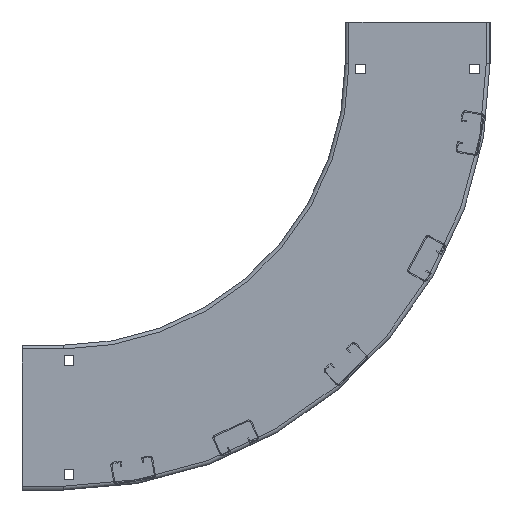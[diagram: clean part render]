
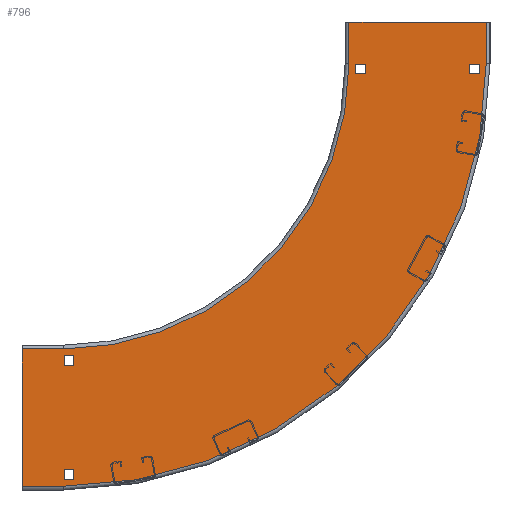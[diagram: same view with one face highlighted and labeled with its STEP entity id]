
A CAD part, left-side view. The second image highlights one B-rep face of the part: STEP entity #796.
In plain terms, the highlighted planar face has unit normal (-1, 0, 0).
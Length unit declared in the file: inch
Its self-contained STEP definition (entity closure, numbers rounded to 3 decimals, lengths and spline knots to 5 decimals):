
#1=DIRECTION('',(0.,0.,-1.));
#2=VECTOR('',#1,5.838);
#3=CARTESIAN_POINT('',(0.,-1.75,18.));
#4=LINE('',#3,#2);
#5=DIRECTION('',(0.,1.,0.));
#6=VECTOR('',#5,5.838);
#7=CARTESIAN_POINT('',(0.,12.162,-1.75));
#8=LINE('',#7,#6);
#9=DIRECTION('',(0.,0.,-1.));
#10=VECTOR('',#9,0.41);
#11=CARTESIAN_POINT('',(0.,17.7035,0.455));
#12=LINE('',#11,#10);
#13=DIRECTION('',(0.,-1.,0.));
#14=VECTOR('',#13,0.41);
#15=CARTESIAN_POINT('',(0.,17.7035,0.045));
#16=LINE('',#15,#14);
#17=DIRECTION('',(0.,0.,1.));
#18=VECTOR('',#17,0.41);
#19=CARTESIAN_POINT('',(0.,17.2935,0.045));
#20=LINE('',#19,#18);
#21=DIRECTION('',(0.,1.,0.));
#22=VECTOR('',#21,0.41);
#23=CARTESIAN_POINT('',(0.,17.2935,0.455));
#24=LINE('',#23,#22);
#25=DIRECTION('',(0.,1.,0.));
#26=VECTOR('',#25,0.41);
#27=CARTESIAN_POINT('',(0.,12.4585,0.455));
#28=LINE('',#27,#26);
#29=DIRECTION('',(0.,0.,-1.));
#30=VECTOR('',#29,0.41);
#31=CARTESIAN_POINT('',(0.,12.8685,0.455));
#32=LINE('',#31,#30);
#33=DIRECTION('',(0.,-1.,0.));
#34=VECTOR('',#33,0.41);
#35=CARTESIAN_POINT('',(0.,12.8685,0.045));
#36=LINE('',#35,#34);
#37=DIRECTION('',(0.,0.,1.));
#38=VECTOR('',#37,0.41);
#39=CARTESIAN_POINT('',(0.,12.4585,0.045));
#40=LINE('',#39,#38);
#41=DIRECTION('',(0.,0.,-1.));
#42=VECTOR('',#41,0.41);
#43=CARTESIAN_POINT('',(0.,0.455,12.86611));
#44=LINE('',#43,#42);
#45=DIRECTION('',(0.,-1.,0.));
#46=VECTOR('',#45,0.41);
#47=CARTESIAN_POINT('',(0.,0.455,12.45611));
#48=LINE('',#47,#46);
#49=DIRECTION('',(0.,0.,1.));
#50=VECTOR('',#49,0.41);
#51=CARTESIAN_POINT('',(0.,0.045,12.45611));
#52=LINE('',#51,#50);
#53=DIRECTION('',(0.,1.,0.));
#54=VECTOR('',#53,0.41);
#55=CARTESIAN_POINT('',(0.,0.045,12.86611));
#56=LINE('',#55,#54);
#57=DIRECTION('',(0.,0.,1.));
#58=VECTOR('',#57,0.41);
#59=CARTESIAN_POINT('',(0.,0.045,17.29177));
#60=LINE('',#59,#58);
#61=DIRECTION('',(0.,1.,0.));
#62=VECTOR('',#61,0.41);
#63=CARTESIAN_POINT('',(0.,0.045,17.70177));
#64=LINE('',#63,#62);
#65=DIRECTION('',(0.,0.,-1.));
#66=VECTOR('',#65,0.41);
#67=CARTESIAN_POINT('',(0.,0.455,17.70177));
#68=LINE('',#67,#66);
#69=DIRECTION('',(0.,-1.,0.));
#70=VECTOR('',#69,0.41);
#71=CARTESIAN_POINT('',(0.,0.455,17.29177));
#72=LINE('',#71,#70);
#73=DIRECTION('',(0.,0.,1.));
#74=VECTOR('',#73,1.75);
#75=CARTESIAN_POINT('',(0.,18.,-1.75));
#76=LINE('',#75,#74);
#114=DIRECTION('',(0.,0.,-1.));
#115=VECTOR('',#114,1.75);
#116=CARTESIAN_POINT('',(0.,12.162,0.));
#117=LINE('',#116,#115);
#123=CARTESIAN_POINT('',(0.,0.,0.));
#124=DIRECTION('',(-1.,0.,0.));
#125=DIRECTION('',(0.,0.,1.));
#126=AXIS2_PLACEMENT_3D('',#123,#124,#125);
#128=DIRECTION('',(0.,1.,0.));
#129=VECTOR('',#128,1.75);
#130=CARTESIAN_POINT('',(0.,-1.75,12.162));
#131=LINE('',#130,#129);
#169=DIRECTION('',(0.,-1.,0.));
#170=VECTOR('',#169,1.75);
#171=CARTESIAN_POINT('',(0.,0.,18.));
#172=LINE('',#171,#170);
#178=CARTESIAN_POINT('',(0.,0.,0.));
#179=DIRECTION('',(1.,0.,0.));
#180=DIRECTION('',(0.,1.,0.));
#181=AXIS2_PLACEMENT_3D('',#178,#179,#180);
#573=CARTESIAN_POINT('',(0.,-1.75,12.162));
#575=VERTEX_POINT('',#573);
#579=CARTESIAN_POINT('',(0.,0.,12.162));
#581=VERTEX_POINT('',#579);
#585=CARTESIAN_POINT('',(0.,12.162,0.));
#587=VERTEX_POINT('',#585);
#591=CARTESIAN_POINT('',(0.,12.162,-1.75));
#593=VERTEX_POINT('',#591);
#621=CARTESIAN_POINT('',(0.,18.,-1.75));
#622=VERTEX_POINT('',#621);
#623=CARTESIAN_POINT('',(0.,-1.75,18.));
#624=VERTEX_POINT('',#623);
#629=CARTESIAN_POINT('',(0.,18.,0.));
#631=VERTEX_POINT('',#629);
#635=CARTESIAN_POINT('',(0.,0.,18.));
#637=VERTEX_POINT('',#635);
#669=CARTESIAN_POINT('',(0.,17.7035,0.455));
#670=CARTESIAN_POINT('',(0.,17.7035,0.045));
#671=VERTEX_POINT('',#669);
#672=VERTEX_POINT('',#670);
#673=CARTESIAN_POINT('',(0.,17.2935,0.045));
#674=VERTEX_POINT('',#673);
#675=CARTESIAN_POINT('',(0.,17.2935,0.455));
#676=VERTEX_POINT('',#675);
#677=CARTESIAN_POINT('',(0.,12.4585,0.455));
#678=CARTESIAN_POINT('',(0.,12.8685,0.455));
#679=VERTEX_POINT('',#677);
#680=VERTEX_POINT('',#678);
#681=CARTESIAN_POINT('',(0.,12.8685,0.045));
#682=VERTEX_POINT('',#681);
#683=CARTESIAN_POINT('',(0.,12.4585,0.045));
#684=VERTEX_POINT('',#683);
#701=CARTESIAN_POINT('',(0.,0.455,12.86611));
#702=CARTESIAN_POINT('',(0.,0.455,12.45611));
#703=VERTEX_POINT('',#701);
#704=VERTEX_POINT('',#702);
#705=CARTESIAN_POINT('',(0.,0.045,12.45611));
#706=VERTEX_POINT('',#705);
#707=CARTESIAN_POINT('',(0.,0.045,12.86611));
#708=VERTEX_POINT('',#707);
#709=CARTESIAN_POINT('',(0.,0.045,17.29177));
#710=CARTESIAN_POINT('',(0.,0.045,17.70177));
#711=VERTEX_POINT('',#709);
#712=VERTEX_POINT('',#710);
#713=CARTESIAN_POINT('',(0.,0.455,17.70177));
#714=VERTEX_POINT('',#713);
#715=CARTESIAN_POINT('',(0.,0.455,17.29177));
#716=VERTEX_POINT('',#715);
#733=CARTESIAN_POINT('',(0.,0.,0.));
#734=DIRECTION('',(1.,0.,0.));
#735=DIRECTION('',(0.,0.,-1.));
#736=AXIS2_PLACEMENT_3D('',#733,#734,#735);
#737=PLANE('',#736);
#739=ORIENTED_EDGE('',*,*,#738,.T.);
#741=ORIENTED_EDGE('',*,*,#740,.T.);
#743=ORIENTED_EDGE('',*,*,#742,.T.);
#745=ORIENTED_EDGE('',*,*,#744,.T.);
#747=ORIENTED_EDGE('',*,*,#746,.T.);
#749=ORIENTED_EDGE('',*,*,#748,.T.);
#751=ORIENTED_EDGE('',*,*,#750,.T.);
#753=ORIENTED_EDGE('',*,*,#752,.T.);
#754=EDGE_LOOP('',(#739,#741,#743,#745,#747,#749,#751,#753));
#755=FACE_OUTER_BOUND('',#754,.F.);
#757=ORIENTED_EDGE('',*,*,#756,.T.);
#759=ORIENTED_EDGE('',*,*,#758,.T.);
#761=ORIENTED_EDGE('',*,*,#760,.T.);
#763=ORIENTED_EDGE('',*,*,#762,.T.);
#764=EDGE_LOOP('',(#757,#759,#761,#763));
#765=FACE_BOUND('',#764,.F.);
#767=ORIENTED_EDGE('',*,*,#766,.T.);
#769=ORIENTED_EDGE('',*,*,#768,.T.);
#771=ORIENTED_EDGE('',*,*,#770,.T.);
#773=ORIENTED_EDGE('',*,*,#772,.T.);
#774=EDGE_LOOP('',(#767,#769,#771,#773));
#775=FACE_BOUND('',#774,.F.);
#777=ORIENTED_EDGE('',*,*,#776,.T.);
#779=ORIENTED_EDGE('',*,*,#778,.T.);
#781=ORIENTED_EDGE('',*,*,#780,.T.);
#783=ORIENTED_EDGE('',*,*,#782,.T.);
#784=EDGE_LOOP('',(#777,#779,#781,#783));
#785=FACE_BOUND('',#784,.F.);
#787=ORIENTED_EDGE('',*,*,#786,.T.);
#789=ORIENTED_EDGE('',*,*,#788,.T.);
#791=ORIENTED_EDGE('',*,*,#790,.T.);
#793=ORIENTED_EDGE('',*,*,#792,.T.);
#794=EDGE_LOOP('',(#787,#789,#791,#793));
#795=FACE_BOUND('',#794,.F.);
#796=ADVANCED_FACE('',(#755,#765,#775,#785,#795),#737,.F.);
#127=CIRCLE('',#126,12.162);
#182=CIRCLE('',#181,18.);
#738=EDGE_CURVE('',#622,#631,#76,.T.);
#740=EDGE_CURVE('',#631,#637,#182,.T.);
#742=EDGE_CURVE('',#637,#624,#172,.T.);
#744=EDGE_CURVE('',#624,#575,#4,.T.);
#746=EDGE_CURVE('',#575,#581,#131,.T.);
#748=EDGE_CURVE('',#581,#587,#127,.T.);
#750=EDGE_CURVE('',#587,#593,#117,.T.);
#752=EDGE_CURVE('',#593,#622,#8,.T.);
#756=EDGE_CURVE('',#671,#672,#12,.T.);
#758=EDGE_CURVE('',#672,#674,#16,.T.);
#760=EDGE_CURVE('',#674,#676,#20,.T.);
#762=EDGE_CURVE('',#676,#671,#24,.T.);
#766=EDGE_CURVE('',#679,#680,#28,.T.);
#768=EDGE_CURVE('',#680,#682,#32,.T.);
#770=EDGE_CURVE('',#682,#684,#36,.T.);
#772=EDGE_CURVE('',#684,#679,#40,.T.);
#776=EDGE_CURVE('',#703,#704,#44,.T.);
#778=EDGE_CURVE('',#704,#706,#48,.T.);
#780=EDGE_CURVE('',#706,#708,#52,.T.);
#782=EDGE_CURVE('',#708,#703,#56,.T.);
#786=EDGE_CURVE('',#711,#712,#60,.T.);
#788=EDGE_CURVE('',#712,#714,#64,.T.);
#790=EDGE_CURVE('',#714,#716,#68,.T.);
#792=EDGE_CURVE('',#716,#711,#72,.T.);
